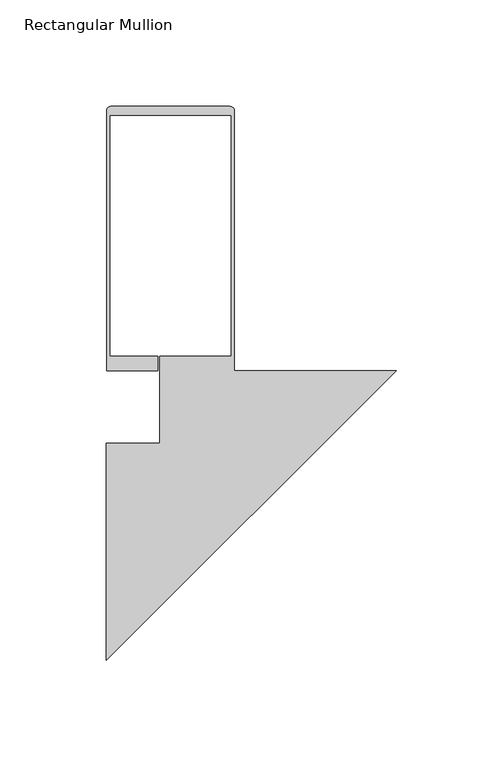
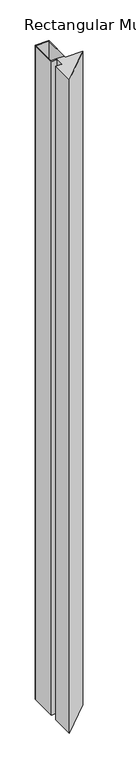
"""IFC4 building model written with IfcOpenShell, lengths in millimetres: member geometry, Rectangular Mullion : FMO053...FM60-120_L."""

import ifcopenshell
import ifcopenshell.guid

model = None  # the IFC model being written
_history = None  # IfcOwnerHistory: only IFC2X3 demands one
_inside = {}  # id of a spatial element -> (the spatial element, [elements in it])
_under = {}  # id of a project, library or spatial element -> (it, [spatial elements below it])
_declared = {}  # id of a project -> (the project, [libraries it declares])
_typed = {}  # id of a type object -> (the type object, [elements of that type])
_made_of = {}  # id of a material, layer set ... -> (it, [elements and type objects made of it])


def new_model(schema):
    """Start an empty IFC model of exactly this schema.

    Asked for "IFC4X3", IfcOpenShell would pick the latest addendum, in which some entities
    have other attributes; the version numbers below select the first issue.
    IFC2X3 requires an IfcOwnerHistory on every rooted entity: one is made here for all.
    """
    global model, _history
    if schema == "IFC4X3":
        model = ifcopenshell.file(schema_version=(4, 3, 0, 0))
    else:
        model = ifcopenshell.file(schema=schema)
    _inside.clear()
    _under.clear()
    _declared.clear()
    _typed.clear()
    _made_of.clear()
    _history = None
    if model.schema == "IFC2X3":
        org = make("IfcOrganization", Name="unknown")
        user = make(
            "IfcPersonAndOrganization",
            ThePerson=make("IfcPerson", FamilyName="unknown"),
            TheOrganization=org,
        )
        app = make(
            "IfcApplication",
            ApplicationDeveloper=org,
            Version="unknown",
            ApplicationFullName="unknown",
            ApplicationIdentifier="unknown",
        )
        _history = make(
            "IfcOwnerHistory",
            OwningUser=user,
            OwningApplication=app,
            ChangeAction="ADDED",
            CreationDate=0,
        )
    return model


def make(cls, **values):
    """One entity of the class cls with the attributes given. An attribute that is None is left unset."""
    return model.create_entity(
        cls, **{name: value for name, value in values.items() if value is not None}
    )


def rooted(cls, **values):
    """An entity with a GlobalId (a new one), such as an element, a storey or a relation."""
    return make(cls, GlobalId=ifcopenshell.guid.new(), OwnerHistory=_history, **values)


def si_unit(unit_type, name, prefix=None):
    """IfcSIUnit, for example si_unit("LENGTHUNIT", "METRE", prefix="MILLI")."""
    return make("IfcSIUnit", UnitType=unit_type, Prefix=prefix, Name=name)


def assignment(units):
    """IfcUnitAssignment: the units of a project."""
    return None if units is None else make("IfcUnitAssignment", Units=units)


def point(xyz):
    """IfcCartesianPoint."""
    return None if xyz is None else make("IfcCartesianPoint", Coordinates=xyz)


def direction(xyz):
    """IfcDirection."""
    return None if xyz is None else make("IfcDirection", DirectionRatios=xyz)


def frame(location, z_axis=None, x_axis=None):
    """IfcAxis2Placement3D, a coordinate frame: its origin and axes. An axis left out is left unset."""
    return make(
        "IfcAxis2Placement3D",
        Location=point(location),
        Axis=direction(z_axis),
        RefDirection=direction(x_axis),
    )


def frame_2d(location, x_axis=None):
    """IfcAxis2Placement2D, a coordinate frame in the plane: its origin and x axis."""
    return make(
        "IfcAxis2Placement2D", Location=point(location), RefDirection=direction(x_axis)
    )


def origin():
    """The frame at (0, 0, 0) with its axes left unset."""
    return frame((0.0, 0.0, 0.0))


def place(relative_to, where):
    """IfcLocalPlacement: puts the frame where relative to a parent placement (None: the world)."""
    return make(
        "IfcLocalPlacement", PlacementRelTo=relative_to, RelativePlacement=where
    )


def context(
    kind, dimensions, precision=None, world=None, true_north=None, identifier=None
):
    """IfcGeometricRepresentationContext, for example the 3D "Model" context."""
    return make(
        "IfcGeometricRepresentationContext",
        ContextIdentifier=identifier,
        ContextType=kind,
        CoordinateSpaceDimension=dimensions,
        Precision=precision,
        WorldCoordinateSystem=world,
        TrueNorth=true_north,
    )


def project(units=None, contexts=None):
    """IfcProject with its units and contexts."""
    return rooted(
        "IfcProject",
        Name="project",
        RepresentationContexts=contexts,
        UnitsInContext=assignment(units),
    )


def spatial(cls, under=None, at=None, **own):
    """A site, building, storey or space (cls), placed at a placement, below another one or the project."""
    s = rooted(cls, ObjectPlacement=at, **own)
    if under is not None:
        _under.setdefault(under.id(), (under, []))[1].append(s)
    return s


def polyline(points):
    """IfcPolyline through the points."""
    return make("IfcPolyline", Points=[point(p) for p in points])


def circle_curve(where, radius):
    """IfcCircle in the frame where."""
    return make("IfcCircle", Position=where, Radius=radius)


def trimmed(basis, trim1, trim2, sense, master):
    """IfcTrimmedCurve: the piece of a basis curve between two trims."""
    return make(
        "IfcTrimmedCurve",
        BasisCurve=basis,
        Trim1=trim1,
        Trim2=trim2,
        SenseAgreement=sense,
        MasterRepresentation=master,
    )


def segment(curve, same_sense, transition):
    """IfcCompositeCurveSegment."""
    return make(
        "IfcCompositeCurveSegment",
        Transition=transition,
        SameSense=same_sense,
        ParentCurve=curve,
    )


def composite_curve(segments, self_intersect=None):
    """IfcCompositeCurve: segments joined end to end."""
    return make("IfcCompositeCurve", Segments=segments, SelfIntersect=self_intersect)


def outline(outer, holes=None, kind="AREA"):
    """IfcArbitraryClosedProfileDef: a profile drawn as a closed curve; with holes, ...WithVoids."""
    if holes is None:
        return make("IfcArbitraryClosedProfileDef", ProfileType=kind, OuterCurve=outer)
    return make(
        "IfcArbitraryProfileDefWithVoids",
        ProfileType=kind,
        OuterCurve=outer,
        InnerCurves=holes,
    )


def extrude(swept, where, along, depth):
    """IfcExtrudedAreaSolid: the profile swept, set in the frame where, extruded along a direction by depth."""
    return make(
        "IfcExtrudedAreaSolid",
        SweptArea=swept,
        Position=where,
        ExtrudedDirection=direction(along),
        Depth=depth,
    )


def shape(context_of_items, identifier, shape_type, items):
    """IfcShapeRepresentation: the items that make up one representation, for example the "Body"."""
    return make(
        "IfcShapeRepresentation",
        ContextOfItems=context_of_items,
        RepresentationIdentifier=identifier,
        RepresentationType=shape_type,
        Items=items,
    )


def source(mapping_origin, context_of_items, identifier, shape_type, items):
    """IfcRepresentationMap: a shape defined once, which mapped items show again and again."""
    return make(
        "IfcRepresentationMap",
        MappingOrigin=mapping_origin,
        MappedRepresentation=shape(context_of_items, identifier, shape_type, items),
    )


def transform(
    local_origin,
    x_axis=None,
    y_axis=None,
    z_axis=None,
    scale=None,
    scale2=None,
    scale3=None,
    uniform=True,
):
    """IfcCartesianTransformationOperator3D, or its non-uniform kind. x_axis, y_axis, z_axis: its Axis1, 2, 3."""
    if uniform:
        return make(
            "IfcCartesianTransformationOperator3D",
            Axis1=direction(x_axis),
            Axis2=direction(y_axis),
            LocalOrigin=point(local_origin),
            Scale=scale,
            Axis3=direction(z_axis),
        )
    return make(
        "IfcCartesianTransformationOperator3DnonUniform",
        Axis1=direction(x_axis),
        Axis2=direction(y_axis),
        LocalOrigin=point(local_origin),
        Scale=scale,
        Axis3=direction(z_axis),
        Scale2=scale2,
        Scale3=scale3,
    )


def mapped(mapping_source, mapping_target):
    """IfcMappedItem: shows the shape of a source again, moved by a transform."""
    return make(
        "IfcMappedItem", MappingSource=mapping_source, MappingTarget=mapping_target
    )


def made_of(thing, what):
    """Note that an element or type object is made of a material, layer set ...; save() writes the relation."""
    if what is not None:
        _made_of.setdefault(what.id(), (what, []))[1].append(thing)
    return thing


def element(
    cls,
    number,
    at=None,
    inside=None,
    cuts=None,
    type_object=None,
    material=None,
    context=None,
    identifier="Body",
    shape_type=None,
    held_by="IfcProductDefinitionShape",
    body=None,
    shapes=None,
    **own,
):
    """One element of the class cls, such as IfcWall. Its Tag is "e" and its number.

    at: its placement. inside: the storey or other place that contains it. cuts: it is an
    opening in that element (IfcRelVoidsElement). A single representation is given by context,
    identifier, shape_type and body (its items); several are given by shapes. held_by: the class
    of the entity that holds the representations. save() writes the other relations.
    """
    e = rooted(cls, Tag="e%d" % number, ObjectPlacement=at, **own)
    if body is not None:
        shapes = [shape(context, identifier, shape_type, body)]
    if shapes is not None:
        e.Representation = make(held_by, Representations=shapes)
    if inside is not None:
        _inside.setdefault(inside.id(), (inside, []))[1].append(e)
    if cuts is not None:
        rooted(
            "IfcRelVoidsElement", RelatingBuildingElement=cuts, RelatedOpeningElement=e
        )
    if type_object is not None:
        _typed.setdefault(type_object.id(), (type_object, []))[1].append(e)
    return made_of(e, material)


def aggregate(whole, parts):
    """IfcRelAggregates: a whole, such as a stair, and the parts it consists of."""
    return rooted("IfcRelAggregates", RelatingObject=whole, RelatedObjects=parts)


def save(model, path):
    """Write the relations noted so far, then the file.

    IfcRelAggregates (storeys below a building ...), IfcRelContainedInSpatialStructure (elements
    in a storey), IfcRelDefinesByType, IfcRelAssociatesMaterial and IfcRelDeclares: one each for
    every whole, place, type object, material and project.
    """
    for whole, parts in _under.values():
        aggregate(whole, parts)
    for where, things in _inside.values():
        rooted(
            "IfcRelContainedInSpatialStructure",
            RelatedElements=things,
            RelatingStructure=where,
        )
    for kind, things in _typed.values():
        rooted("IfcRelDefinesByType", RelatedObjects=things, RelatingType=kind)
    for what, things in _made_of.values():
        rooted("IfcRelAssociatesMaterial", RelatedObjects=things, RelatingMaterial=what)
    for by, libraries in _declared.values():
        rooted("IfcRelDeclares", RelatingContext=by, RelatedDefinitions=libraries)
    model.write(path)


def rectangular_mullion_8fff6d0e(model_context):
    return source(origin(), model_context, "Body", "SweptSolid", [
        extrude(outline(composite_curve([segment(polyline([(-134.5454068, 136.727677), (-134.5454068, 23.5957213), (-111.9712064, 23.5957213), (-111.9712064, 16.8), (-135.9454068, 16.8), (-135.9454068, 138.8348017)]), True, "CONTINUOUS"), segment(trimmed(circle_curve(frame_2d((-133.9227346, 138.8348017)), 2.0226722), [point((-135.9454068, 138.8348017))], [point((-133.9227346, 140.8574739))], False, "CARTESIAN"), True, "CONTINUOUS"), segment(polyline([(-133.9227346, 140.8574739), (-77.9892401, 140.8574739)]), True, "CONTINUOUS"), segment(trimmed(circle_curve(frame_2d((-77.9892401, 138.8136407)), 2.0438333), [point((-77.9892401, 140.8574739))], [point((-75.9454068, 138.8136407))], False, "CARTESIAN"), True, "CONTINUOUS"), segment(polyline([(-75.9454068, 138.8136407), (-75.9454068, 16.7743874), (0.0, 16.7743874), (-135.9712064, -119.196819), (-135.9712064, -17.2), (-110.9712064, -17.2), (-110.9712064, 23.5957213), (-77.3454068, 23.5957213), (-77.3454068, 136.727677), (-134.5454068, 136.727677)]), True, "CONTINUOUS")], self_intersect=False)), frame((0.0, 0.0, -3000.0), z_axis=(0.0, 0.0, 1.0), x_axis=(1.0, 0.0, 0.0)), (0.0, 0.0, 1.0), 3000.0),
    ])


if __name__ == "__main__":
    model = new_model("IFC4")
    model_context = context("Model", 3, world=origin())
    ifc_project = project(units=[si_unit("LENGTHUNIT", "METRE", prefix="MILLI")], contexts=[model_context])
    site = spatial("IfcSite", under=ifc_project)
    building = spatial("IfcBuilding", under=site)
    placement = place(None, origin())
    rectangular_mullion_shape = rectangular_mullion_8fff6d0e(model_context)
    element("IfcMember", 1, ObjectType="Rectangular Mullion : FMO053...FM60-120_L", at=placement, inside=building, context=model_context, shape_type="MappedRepresentation", body=[
        mapped(rectangular_mullion_shape, transform((0.0, 0.0, 0.0), x_axis=(1.0, 0.0, 0.0), y_axis=(0.0, 1.0, 0.0), z_axis=(0.0, 0.0, 1.0))),
    ])
    save(model, "model.ifc")
